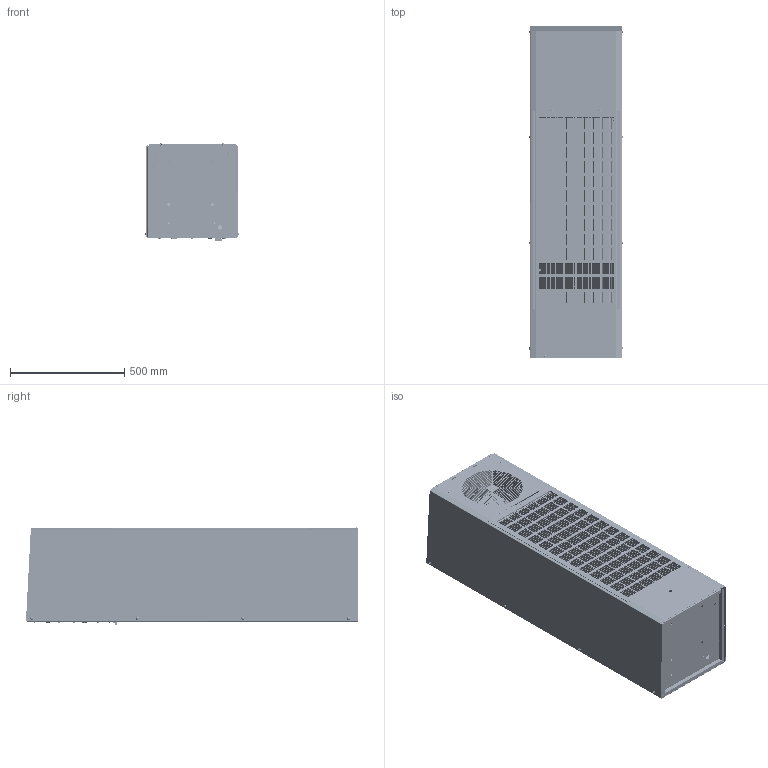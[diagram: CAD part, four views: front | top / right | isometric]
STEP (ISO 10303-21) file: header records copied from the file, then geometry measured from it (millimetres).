
FILE_DESCRIPTION (( 'STEP AP214' ), '1' );
FILE_NAME ('DTS 34-366181.STEP', '2020-06-30T17:02:30', ( '' ), ( '' ), 'SwSTEP 2.0', 'SolidWorks 2018', '' );
FILE_SCHEMA (( 'AUTOMOTIVE_DESIGN' ));
Length unit declared in the file: millimetre
Products named in the file (1): DTS 34-366181
Bounding box: 409.28 x 1452.14 x 425.58 mm (x, y, z)
Surface area: 11120180.9 mm2 (no closed solid volume)
Topology: 0 solids, 241 shells, 12034 faces, 31109 edges, 19341 vertices
Faces by surface type: plane 4943, cylinder 3921, cone 2043, bspline 487, torus 350, sphere 290
Entity records: 524244 total; most frequent: CARTESIAN_POINT 94285, DIRECTION 62618, ORIENTED_EDGE 60759, EDGE_CURVE 30387, AXIS2_PLACEMENT_3D 22686, VERTEX_POINT 18915, LINE 17246, VECTOR 17246
